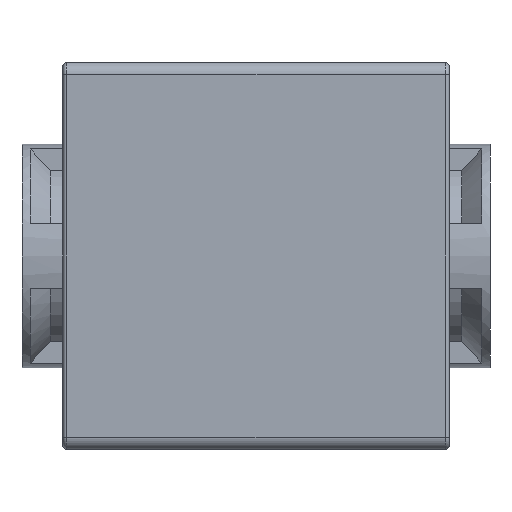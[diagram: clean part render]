
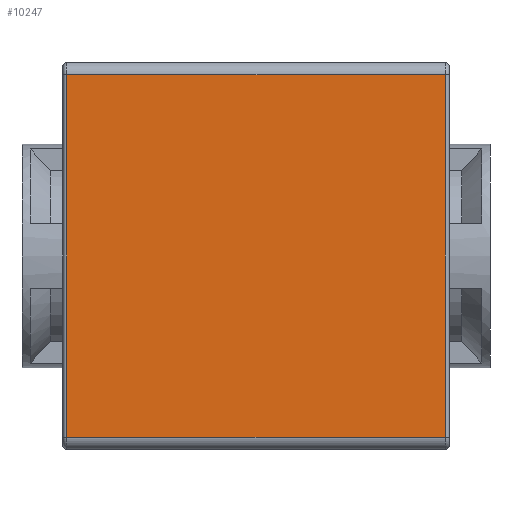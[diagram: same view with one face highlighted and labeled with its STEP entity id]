
A CAD part, front view. The second image highlights one B-rep face of the part: STEP entity #10247.
In plain terms, the highlighted planar face has unit normal (0, -1, 0).
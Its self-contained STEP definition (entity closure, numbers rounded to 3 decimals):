
#2869 = CARTESIAN_POINT ( 'NONE',  ( -47.5, -47.5, 47.5 ) ) ;
#2870 = AXIS2_PLACEMENT_3D ( 'NONE', #2869, #2903, #2902 ) ;
#2871 = FACE_OUTER_BOUND ( 'NONE', #10248, .T. ) ;
#2877 = DIRECTION ( 'NONE',  ( 0., 0., -1. ) ) ;
#2878 = VECTOR ( 'NONE', #2877, 1000. ) ;
#2879 = CARTESIAN_POINT ( 'NONE',  ( -46.5, -47.5, 47.5 ) ) ;
#2880 = LINE ( 'NONE', #2879, #2878 ) ;
#2881 = CARTESIAN_POINT ( 'NONE',  ( -46.5, -47.5, 44.5 ) ) ;
#2882 = CARTESIAN_POINT ( 'NONE',  ( 46.5, -47.5, 44.5 ) ) ;
#2902 = DIRECTION ( 'NONE',  ( 0., 0., 1. ) ) ;
#2903 = DIRECTION ( 'NONE',  ( 0., 1., 0. ) ) ;
#2917 = CARTESIAN_POINT ( 'NONE',  ( -46.5, -47.5, -44.5 ) ) ;
#2921 = DIRECTION ( 'NONE',  ( -1., 0., 0. ) ) ;
#2922 = VECTOR ( 'NONE', #2921, 1000. ) ;
#2923 = CARTESIAN_POINT ( 'NONE',  ( -47.5, -47.5, 44.5 ) ) ;
#2924 = LINE ( 'NONE', #2923, #2922 ) ;
#2928 = PLANE ( 'NONE',  #2870 ) ;
#3210 = DIRECTION ( 'NONE',  ( 1., 0., 0. ) ) ;
#3211 = VECTOR ( 'NONE', #3210, 1000. ) ;
#3212 = CARTESIAN_POINT ( 'NONE',  ( -47.5, -47.5, -44.5 ) ) ;
#3213 = LINE ( 'NONE', #3212, #3211 ) ;
#3294 = DIRECTION ( 'NONE',  ( 0., 0., 1. ) ) ;
#3295 = VECTOR ( 'NONE', #3294, 1000. ) ;
#3296 = CARTESIAN_POINT ( 'NONE',  ( 46.5, -47.5, 47.5 ) ) ;
#3297 = LINE ( 'NONE', #3296, #3295 ) ;
#3298 = CARTESIAN_POINT ( 'NONE',  ( 46.5, -47.5, -44.5 ) ) ;
#10247 = ADVANCED_FACE ( 'NONE', ( #2871 ), #2928, .F. ) ;
#10248 = EDGE_LOOP ( 'NONE', ( #10249, #10253, #10256, #10456 ) ) ;
#10249 = ORIENTED_EDGE ( 'NONE', *, *, #10250, .T. ) ;
#10250 = EDGE_CURVE ( 'NONE', #10251, #10252, #2924, .T. ) ;
#10251 = VERTEX_POINT ( 'NONE', #2882 ) ;
#10252 = VERTEX_POINT ( 'NONE', #2881 ) ;
#10253 = ORIENTED_EDGE ( 'NONE', *, *, #10254, .T. ) ;
#10254 = EDGE_CURVE ( 'NONE', #10252, #10255, #2880, .T. ) ;
#10255 = VERTEX_POINT ( 'NONE', #2917 ) ;
#10256 = ORIENTED_EDGE ( 'NONE', *, *, #10454, .T. ) ;
#10454 = EDGE_CURVE ( 'NONE', #10255, #10455, #3213, .T. ) ;
#10455 = VERTEX_POINT ( 'NONE', #3298 ) ;
#10456 = ORIENTED_EDGE ( 'NONE', *, *, #10457, .T. ) ;
#10457 = EDGE_CURVE ( 'NONE', #10455, #10251, #3297, .T. ) ;
